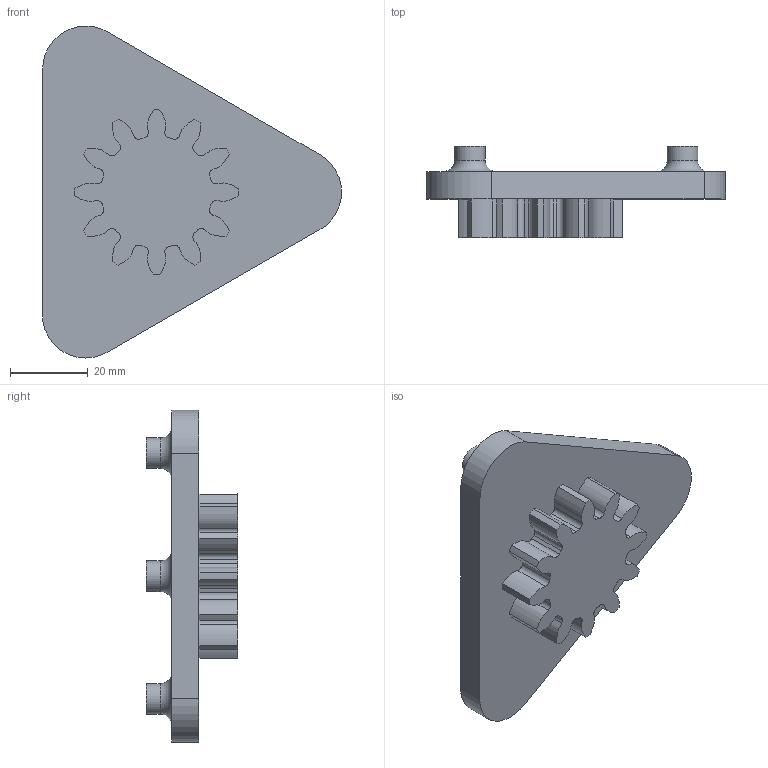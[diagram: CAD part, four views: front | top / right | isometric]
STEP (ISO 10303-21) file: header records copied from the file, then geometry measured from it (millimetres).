
FILE_DESCRIPTION(/* description */ ('STEP AP242 Edition 2','CAx-IF Rec.Pracs.---Representation and Presentation of Product Manufacturing Information (PMI)---4.0---2014-10-13','CAx-IF Rec.Pracs.---3D Tessellated Geometry---0.4---2014-09-14','2;1','CAx-IF Rec.Pracs.---User Defined Attributes---1.5---2016-08-15'),/* implementation_level */ '2;1');
FILE_NAME(/* name */ 'Assembly V2 - Part 5',/* time_stamp */ '2026-02-05T22:44:42Z',/* author */ (''),/* organization */ (''),/* preprocessor_version */ 'ST-DEVELOPER v20',/* originating_system */ 'ONSHAPE BY PTC INC, 1.210',/* authorisation */ ' ');
FILE_SCHEMA (('AP242_MANAGED_MODEL_BASED_3D_ENGINEERING_MIM_LF { 1 0 10303 442 3 1 4 }'));
Length unit declared in the file: metre
Products named in the file (1): Part 5
Bounding box: 77.15 x 23.6 x 85.61 mm (x, y, z)
Volume: 40657.2 mm3; surface area: 12977.6 mm2
Topology: 1 solids, 1 shells, 90 faces, 249 edges, 165 vertices
Faces by surface type: cylinder 54, bspline 24, plane 9, torus 3
Full cylindrical faces by diameter (mm): 7.9 x3
Entity records: 6032 total; most frequent: CARTESIAN_POINT 3787, ORIENTED_EDGE 486, DIRECTION 440, EDGE_CURVE 243, AXIS2_PLACEMENT_3D 178, VERTEX_POINT 165, CIRCLE 111, EDGE_LOOP 100
